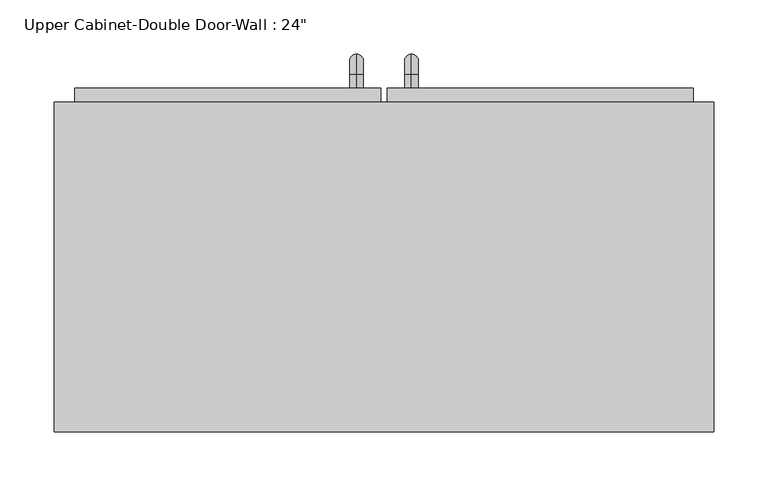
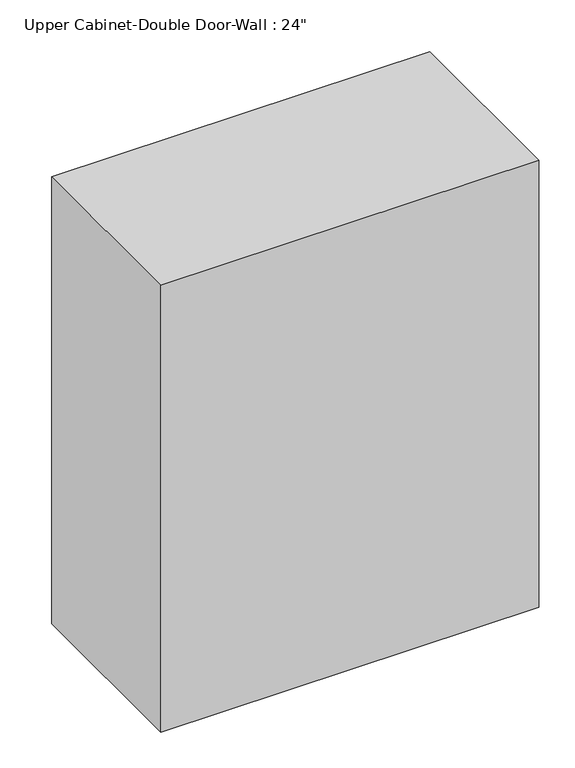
"""IFC4 building model written with IfcOpenShell, lengths in millimetres: furniture geometry."""

import ifcopenshell
import ifcopenshell.guid

model = None  # the IFC model being written
_history = None  # IfcOwnerHistory: only IFC2X3 demands one
_inside = {}  # id of a spatial element -> (the spatial element, [elements in it])
_under = {}  # id of a project, library or spatial element -> (it, [spatial elements below it])
_declared = {}  # id of a project -> (the project, [libraries it declares])
_typed = {}  # id of a type object -> (the type object, [elements of that type])
_made_of = {}  # id of a material, layer set ... -> (it, [elements and type objects made of it])


def new_model(schema):
    """Start an empty IFC model of exactly this schema.

    Asked for "IFC4X3", IfcOpenShell would pick the latest addendum, in which some entities
    have other attributes; the version numbers below select the first issue.
    IFC2X3 requires an IfcOwnerHistory on every rooted entity: one is made here for all.
    """
    global model, _history
    if schema == "IFC4X3":
        model = ifcopenshell.file(schema_version=(4, 3, 0, 0))
    else:
        model = ifcopenshell.file(schema=schema)
    _inside.clear()
    _under.clear()
    _declared.clear()
    _typed.clear()
    _made_of.clear()
    _history = None
    if model.schema == "IFC2X3":
        org = make("IfcOrganization", Name="unknown")
        user = make(
            "IfcPersonAndOrganization",
            ThePerson=make("IfcPerson", FamilyName="unknown"),
            TheOrganization=org,
        )
        app = make(
            "IfcApplication",
            ApplicationDeveloper=org,
            Version="unknown",
            ApplicationFullName="unknown",
            ApplicationIdentifier="unknown",
        )
        _history = make(
            "IfcOwnerHistory",
            OwningUser=user,
            OwningApplication=app,
            ChangeAction="ADDED",
            CreationDate=0,
        )
    return model


def make(cls, **values):
    """One entity of the class cls with the attributes given. An attribute that is None is left unset."""
    return model.create_entity(
        cls, **{name: value for name, value in values.items() if value is not None}
    )


def rooted(cls, **values):
    """An entity with a GlobalId (a new one), such as an element, a storey or a relation."""
    return make(cls, GlobalId=ifcopenshell.guid.new(), OwnerHistory=_history, **values)


def si_unit(unit_type, name, prefix=None):
    """IfcSIUnit, for example si_unit("LENGTHUNIT", "METRE", prefix="MILLI")."""
    return make("IfcSIUnit", UnitType=unit_type, Prefix=prefix, Name=name)


def assignment(units):
    """IfcUnitAssignment: the units of a project."""
    return None if units is None else make("IfcUnitAssignment", Units=units)


def point(xyz):
    """IfcCartesianPoint."""
    return None if xyz is None else make("IfcCartesianPoint", Coordinates=xyz)


def direction(xyz):
    """IfcDirection."""
    return None if xyz is None else make("IfcDirection", DirectionRatios=xyz)


def frame(location, z_axis=None, x_axis=None):
    """IfcAxis2Placement3D, a coordinate frame: its origin and axes. An axis left out is left unset."""
    return make(
        "IfcAxis2Placement3D",
        Location=point(location),
        Axis=direction(z_axis),
        RefDirection=direction(x_axis),
    )


def origin():
    """The frame at (0, 0, 0) with its axes left unset."""
    return frame((0.0, 0.0, 0.0))


def place(relative_to, where):
    """IfcLocalPlacement: puts the frame where relative to a parent placement (None: the world)."""
    return make(
        "IfcLocalPlacement", PlacementRelTo=relative_to, RelativePlacement=where
    )


def context(
    kind, dimensions, precision=None, world=None, true_north=None, identifier=None
):
    """IfcGeometricRepresentationContext, for example the 3D "Model" context."""
    return make(
        "IfcGeometricRepresentationContext",
        ContextIdentifier=identifier,
        ContextType=kind,
        CoordinateSpaceDimension=dimensions,
        Precision=precision,
        WorldCoordinateSystem=world,
        TrueNorth=true_north,
    )


def project(units=None, contexts=None):
    """IfcProject with its units and contexts."""
    return rooted(
        "IfcProject",
        Name="project",
        RepresentationContexts=contexts,
        UnitsInContext=assignment(units),
    )


def spatial(cls, under=None, at=None, **own):
    """A site, building, storey or space (cls), placed at a placement, below another one or the project."""
    s = rooted(cls, ObjectPlacement=at, **own)
    if under is not None:
        _under.setdefault(under.id(), (under, []))[1].append(s)
    return s


def polyline(points):
    """IfcPolyline through the points."""
    return make("IfcPolyline", Points=[point(p) for p in points])


def circle_curve(where, radius):
    """IfcCircle in the frame where."""
    return make("IfcCircle", Position=where, Radius=radius)


def ellipse_curve(where, semi_axis1, semi_axis2):
    """IfcEllipse in the frame where."""
    return make(
        "IfcEllipse", Position=where, SemiAxis1=semi_axis1, SemiAxis2=semi_axis2
    )


def trimmed(basis, trim1, trim2, sense, master):
    """IfcTrimmedCurve: the piece of a basis curve between two trims."""
    return make(
        "IfcTrimmedCurve",
        BasisCurve=basis,
        Trim1=trim1,
        Trim2=trim2,
        SenseAgreement=sense,
        MasterRepresentation=master,
    )


def outline(outer, holes=None, kind="AREA"):
    """IfcArbitraryClosedProfileDef: a profile drawn as a closed curve; with holes, ...WithVoids."""
    if holes is None:
        return make("IfcArbitraryClosedProfileDef", ProfileType=kind, OuterCurve=outer)
    return make(
        "IfcArbitraryProfileDefWithVoids",
        ProfileType=kind,
        OuterCurve=outer,
        InnerCurves=holes,
    )


def extrude(swept, where, along, depth):
    """IfcExtrudedAreaSolid: the profile swept, set in the frame where, extruded along a direction by depth."""
    return make(
        "IfcExtrudedAreaSolid",
        SweptArea=swept,
        Position=where,
        ExtrudedDirection=direction(along),
        Depth=depth,
    )


def faces_of(points, faces, orient=None, outer=None):
    """IfcFace entities. A face is a list of loops; a loop is a list of indices into points, from 0.

    orient and outer hold one flag for each loop. By default every Orientation is true, the
    first loop of a face is its IfcFaceOuterBound and the others are IfcFaceBound.
    """
    made = []
    for i, loops in enumerate(faces):
        bounds = []
        for j, loop in enumerate(loops):
            is_outer = j == 0 if outer is None else outer[i][j]
            bounds.append(
                make(
                    "IfcFaceOuterBound" if is_outer else "IfcFaceBound",
                    Bound=make("IfcPolyLoop", Polygon=[points[k] for k in loop]),
                    Orientation=True if orient is None else orient[i][j],
                )
            )
        made.append(make("IfcFace", Bounds=bounds))
    return made


def faceted_brep(points, faces, orient=None, outer=None, voids=None):
    """IfcFacetedBrep: a solid bounded by flat faces; with voids (closed shells), ...WithVoids."""
    shared = [point(p) for p in points]
    hull = make("IfcClosedShell", CfsFaces=faces_of(shared, faces, orient, outer))
    if voids is None:
        return make("IfcFacetedBrep", Outer=hull)
    return make(
        "IfcFacetedBrepWithVoids",
        Outer=hull,
        Voids=[
            make(cls, CfsFaces=faces_of(shared, fs, o, b)) for cls, fs, o, b in voids
        ],
    )


def shape(context_of_items, identifier, shape_type, items):
    """IfcShapeRepresentation: the items that make up one representation, for example the "Body"."""
    return make(
        "IfcShapeRepresentation",
        ContextOfItems=context_of_items,
        RepresentationIdentifier=identifier,
        RepresentationType=shape_type,
        Items=items,
    )


def source(mapping_origin, context_of_items, identifier, shape_type, items):
    """IfcRepresentationMap: a shape defined once, which mapped items show again and again."""
    return make(
        "IfcRepresentationMap",
        MappingOrigin=mapping_origin,
        MappedRepresentation=shape(context_of_items, identifier, shape_type, items),
    )


def transform(
    local_origin,
    x_axis=None,
    y_axis=None,
    z_axis=None,
    scale=None,
    scale2=None,
    scale3=None,
    uniform=True,
):
    """IfcCartesianTransformationOperator3D, or its non-uniform kind. x_axis, y_axis, z_axis: its Axis1, 2, 3."""
    if uniform:
        return make(
            "IfcCartesianTransformationOperator3D",
            Axis1=direction(x_axis),
            Axis2=direction(y_axis),
            LocalOrigin=point(local_origin),
            Scale=scale,
            Axis3=direction(z_axis),
        )
    return make(
        "IfcCartesianTransformationOperator3DnonUniform",
        Axis1=direction(x_axis),
        Axis2=direction(y_axis),
        LocalOrigin=point(local_origin),
        Scale=scale,
        Axis3=direction(z_axis),
        Scale2=scale2,
        Scale3=scale3,
    )


def mapped(mapping_source, mapping_target):
    """IfcMappedItem: shows the shape of a source again, moved by a transform."""
    return make(
        "IfcMappedItem", MappingSource=mapping_source, MappingTarget=mapping_target
    )


def made_of(thing, what):
    """Note that an element or type object is made of a material, layer set ...; save() writes the relation."""
    if what is not None:
        _made_of.setdefault(what.id(), (what, []))[1].append(thing)
    return thing


def element(
    cls,
    number,
    at=None,
    inside=None,
    cuts=None,
    type_object=None,
    material=None,
    context=None,
    identifier="Body",
    shape_type=None,
    held_by="IfcProductDefinitionShape",
    body=None,
    shapes=None,
    **own,
):
    """One element of the class cls, such as IfcWall. Its Tag is "e" and its number.

    at: its placement. inside: the storey or other place that contains it. cuts: it is an
    opening in that element (IfcRelVoidsElement). A single representation is given by context,
    identifier, shape_type and body (its items); several are given by shapes. held_by: the class
    of the entity that holds the representations. save() writes the other relations.
    """
    e = rooted(cls, Tag="e%d" % number, ObjectPlacement=at, **own)
    if body is not None:
        shapes = [shape(context, identifier, shape_type, body)]
    if shapes is not None:
        e.Representation = make(held_by, Representations=shapes)
    if inside is not None:
        _inside.setdefault(inside.id(), (inside, []))[1].append(e)
    if cuts is not None:
        rooted(
            "IfcRelVoidsElement", RelatingBuildingElement=cuts, RelatedOpeningElement=e
        )
    if type_object is not None:
        _typed.setdefault(type_object.id(), (type_object, []))[1].append(e)
    return made_of(e, material)


def aggregate(whole, parts):
    """IfcRelAggregates: a whole, such as a stair, and the parts it consists of."""
    return rooted("IfcRelAggregates", RelatingObject=whole, RelatedObjects=parts)


def save(model, path):
    """Write the relations noted so far, then the file.

    IfcRelAggregates (storeys below a building ...), IfcRelContainedInSpatialStructure (elements
    in a storey), IfcRelDefinesByType, IfcRelAssociatesMaterial and IfcRelDeclares: one each for
    every whole, place, type object, material and project.
    """
    for whole, parts in _under.values():
        aggregate(whole, parts)
    for where, things in _inside.values():
        rooted(
            "IfcRelContainedInSpatialStructure",
            RelatedElements=things,
            RelatingStructure=where,
        )
    for kind, things in _typed.values():
        rooted("IfcRelDefinesByType", RelatedObjects=things, RelatingType=kind)
    for what, things in _made_of.values():
        rooted("IfcRelAssociatesMaterial", RelatedObjects=things, RelatingMaterial=what)
    for by, libraries in _declared.values():
        rooted("IfcRelDeclares", RelatingContext=by, RelatedDefinitions=libraries)
    model.write(path)


def plane_surface(at):
    """IfcPlane: the flat surface through the origin of the frame at, square to its z axis."""
    return make("IfcPlane", Position=at)


def cylinder_surface(at, radius):
    """IfcCylindricalSurface: all points at the distance radius from the z axis of the frame at."""
    return make("IfcCylindricalSurface", Position=at, Radius=radius)


def revolved_surface(curve, axis_point, axis_direction):
    """IfcSurfaceOfRevolution: the curve turned about the line through axis_point along axis_direction."""
    return make(
        "IfcSurfaceOfRevolution",
        SweptCurve=make("IfcArbitraryOpenProfileDef", ProfileType="CURVE", Curve=curve),
        AxisPosition=make("IfcAxis1Placement", Location=point(axis_point), Axis=direction(axis_direction)),
    )


def advanced_brep(points, edges, surfaces, faces):
    """IfcAdvancedBrep: a solid bounded by faces that lie on surfaces and meet in shared edges.

    An edge is (start, end): straight between two places in points (the first is 0);
    or (start, end, curve); or (start, end, curve, False) where it runs against its curve.
    A face is (place in surfaces, loops), or (place, loops, False) where it looks against
    its surface's normal. A loop lists edges by number (the first is 1), with a minus sign
    where the edge is run from its end to its start. The first loop is the outer one.
    """
    corners = [point(p) for p in points]
    vertices = [make("IfcVertexPoint", VertexGeometry=c) for c in corners]
    made = []
    for start, end, *more in edges:
        made.append(
            make(
                "IfcEdgeCurve",
                EdgeStart=vertices[start],
                EdgeEnd=vertices[end],
                EdgeGeometry=more[0] if more else make("IfcPolyline", Points=[corners[start], corners[end]]),
                SameSense=more[1] if len(more) > 1 else True,
            )
        )
    hull = []
    for where, loops, *sense in faces:
        bounds = []
        for j, loop in enumerate(loops):
            ring = [make("IfcOrientedEdge", EdgeElement=made[abs(k) - 1], Orientation=k > 0) for k in loop]
            bounds.append(
                make(
                    "IfcFaceOuterBound" if j == 0 else "IfcFaceBound",
                    Bound=make("IfcEdgeLoop", EdgeList=ring),
                    Orientation=True,
                )
            )
        hull.append(make("IfcAdvancedFace", Bounds=bounds, FaceSurface=surfaces[where], SameSense=sense[0] if sense else True))
    return make("IfcAdvancedBrep", Outer=make("IfcClosedShell", CfsFaces=hull))


def furniture_de2c603d(model_context):
    return source(origin(), model_context, "Body", "SolidModel", [
        faceted_brep([(-275.0288372, 57.15, 2133.6), (-275.0288372, 57.15, 1371.6), (334.5711628, 57.15, 1371.6), (334.5711628, 57.15, 2133.6), (-275.0288372, 361.95, 2133.6), (334.5711628, 361.95, 2133.6), (334.5711628, 361.95, 1371.6), (-275.0288372, 361.95, 1371.6), (-255.9788372, 361.95, 2114.55), (-255.9788372, 361.95, 1390.65), (315.5211628, 361.95, 1390.65), (315.5211628, 361.95, 2114.55), (315.5211628, 76.2, 2114.55), (-255.9788372, 76.2, 2114.55), (315.5211628, 76.2, 1390.65), (-255.9788372, 76.2, 1390.65)], [[[0, 1, 2, 3]], [[4, 5, 6, 7], [8, 9, 10, 11]], [[1, 0, 4, 7]], [[2, 1, 7, 6]], [[3, 2, 6, 5]], [[0, 3, 5, 4]], [[8, 11, 12, 13]], [[11, 10, 14, 12]], [[10, 9, 15, 14]], [[9, 8, 13, 15]], [[13, 12, 14, 15]]]),
        advanced_brep(
        [(55.1711628, 374.65, 1517.65), (55.1711628, 374.65, 1530.35), (55.1711628, 387.35, 1517.65), (55.1711628, 387.35, 1530.35), (55.1711628, 406.4, 1511.3), (55.1711628, 393.7, 1511.3), (55.1711628, 393.7, 1435.1), (55.1711628, 406.4, 1435.1), (55.1711628, 387.35, 1416.05), (55.1711628, 387.35, 1428.75), (55.1711628, 374.65, 1428.75), (55.1711628, 374.65, 1416.05)],
        [
            (0, 1, circle_curve(frame((55.1711628, 374.65, 1524.0), z_axis=(0.0, -1.0, 0.0), x_axis=(0.0, 0.0, -1.0)), 6.35)),
            (1, 0, circle_curve(frame((55.1711628, 374.65, 1524.0), z_axis=(0.0, -1.0, 0.0), x_axis=(0.0, 0.0, -1.0)), 6.35)),
            (0, 2),
            (2, 3, circle_curve(frame((55.1711628, 387.35, 1524.0), z_axis=(0.0, -1.0, 0.0), x_axis=(0.0, 0.0, -1.0)), 6.35)),
            (3, 1),
            (3, 2, circle_curve(frame((55.1711628, 387.35, 1524.0), z_axis=(0.0, -1.0, 0.0), x_axis=(0.0, 0.0, -1.0)), 6.35)),
            (4, 3, circle_curve(frame((55.1711628, 387.35, 1511.3), z_axis=(1.0, 0.0, 0.0), x_axis=(0.0, 0.0, 1.0)), 19.05)),
            (2, 5, circle_curve(frame((55.1711628, 387.35, 1511.3), z_axis=(-1.0, 0.0, 0.0), x_axis=(0.0, 0.0, 1.0)), 6.35)),
            (5, 4, circle_curve(frame((55.1711628, 400.05, 1511.3), z_axis=(0.0, 0.0, 1.0), x_axis=(0.0, -1.0, 0.0)), 6.35)),
            (4, 5, circle_curve(frame((55.1711628, 400.05, 1511.3), z_axis=(0.0, 0.0, 1.0), x_axis=(0.0, -1.0, 0.0)), 6.35)),
            (5, 6),
            (6, 7, circle_curve(frame((55.1711628, 400.05, 1435.1), z_axis=(0.0, 0.0, 1.0), x_axis=(0.0, -1.0, 0.0)), 6.35)),
            (7, 4),
            (7, 6, circle_curve(frame((55.1711628, 400.05, 1435.1), z_axis=(0.0, 0.0, 1.0), x_axis=(0.0, -1.0, 0.0)), 6.35)),
            (8, 7, circle_curve(frame((55.1711628, 387.35, 1435.1), z_axis=(1.0, 0.0, 0.0), x_axis=(0.0, 1.0, 0.0)), 19.05)),
            (6, 9, circle_curve(frame((55.1711628, 387.35, 1435.1), z_axis=(-1.0, 0.0, 0.0), x_axis=(0.0, 1.0, 0.0)), 6.35)),
            (9, 8, circle_curve(frame((55.1711628, 387.35, 1422.4), z_axis=(0.0, 1.0, 0.0), x_axis=(0.0, 0.0, 1.0)), 6.35)),
            (8, 9, circle_curve(frame((55.1711628, 387.35, 1422.4), z_axis=(0.0, 1.0, 0.0), x_axis=(0.0, 0.0, 1.0)), 6.35)),
            (10, 11, circle_curve(frame((55.1711628, 374.65, 1422.4), z_axis=(0.0, -1.0, 0.0), x_axis=(0.0, 0.0, 1.0)), 6.35)),
            (11, 10, circle_curve(frame((55.1711628, 374.65, 1422.4), z_axis=(0.0, -1.0, 0.0), x_axis=(0.0, 0.0, 1.0)), 6.35)),
            (9, 10),
            (11, 8),
        ],
        [
            plane_surface(frame((48.8211628, 374.65, 1524.0), z_axis=(0.0, -1.0, 0.0), x_axis=(0.0, 0.0, 1.0))),
            cylinder_surface(frame((55.1711628, 374.65, 1524.0), z_axis=(0.0, -1.0, 0.0), x_axis=(0.0, 0.0, -1.0)), 6.35),
            revolved_surface(trimmed(ellipse_curve(frame((55.1711628, 387.35, 1524.0), z_axis=(0.0, -1.0, 0.0), x_axis=(0.0, 0.0, -1.0)), 6.35, 6.35), [point((55.1711628, 387.35, 1517.65))], [point((55.1711628, 387.35, 1530.35))], True, "CARTESIAN"), (55.1711628, 387.35, 1511.3), (-1.0, 0.0, 0.0)),
            revolved_surface(trimmed(ellipse_curve(frame((55.1711628, 387.35, 1524.0), z_axis=(0.0, -1.0, 0.0), x_axis=(0.0, 0.0, -1.0)), 6.35, 6.35), [point((55.1711628, 387.35, 1530.35))], [point((55.1711628, 387.35, 1517.65))], True, "CARTESIAN"), (55.1711628, 387.35, 1511.3), (-1.0, 0.0, 0.0)),
            cylinder_surface(frame((55.1711628, 400.05, 1511.3), z_axis=(0.0, 0.0, 1.0), x_axis=(0.0, -1.0, 0.0)), 6.35),
            revolved_surface(trimmed(ellipse_curve(frame((55.1711628, 400.05, 1435.1), z_axis=(0.0, 0.0, 1.0), x_axis=(0.0, -1.0, 0.0)), 6.35, 6.35), [point((55.1711628, 393.7, 1435.1))], [point((55.1711628, 406.4, 1435.1))], True, "CARTESIAN"), (55.1711628, 387.35, 1435.1), (-1.0, 0.0, 0.0)),
            revolved_surface(trimmed(ellipse_curve(frame((55.1711628, 400.05, 1435.1), z_axis=(0.0, 0.0, 1.0), x_axis=(0.0, -1.0, 0.0)), 6.35, 6.35), [point((55.1711628, 406.4, 1435.1))], [point((55.1711628, 393.7, 1435.1))], True, "CARTESIAN"), (55.1711628, 387.35, 1435.1), (-1.0, 0.0, 0.0)),
            plane_surface(frame((48.8211628, 374.65, 1422.4), z_axis=(0.0, -1.0, 0.0), x_axis=(0.0, 0.0, -1.0))),
            cylinder_surface(frame((55.1711628, 387.35, 1422.4), z_axis=(0.0, 1.0, 0.0), x_axis=(0.0, 0.0, 1.0)), 6.35),
        ],
        [
            (0, [[1, 2]]),
            (1, [[-1, 3, 4, 5]]),
            (1, [[-2, -5, 6, -3]]),
            (2, [[7, -4, 8, 9]]),
            (3, [[-8, -6, -7, 10]]),
            (4, [[-9, 11, 12, 13]]),
            (4, [[-10, -13, 14, -11]]),
            (5, [[15, -12, 16, 17]]),
            (6, [[-16, -14, -15, 18]]),
            (7, [[19, 20]]),
            (8, [[-17, 21, -20, 22]]),
            (8, [[-18, -22, -19, -21]]),
        ],
    ),
        advanced_brep(
        [(4.3711628, 374.65, 1517.65), (4.3711628, 374.65, 1530.35), (4.3711628, 387.35, 1517.65), (4.3711628, 387.35, 1530.35), (4.3711628, 406.4, 1511.3), (4.3711628, 393.7, 1511.3), (4.3711628, 393.7, 1435.1), (4.3711628, 406.4, 1435.1), (4.3711628, 387.35, 1416.05), (4.3711628, 387.35, 1428.75), (4.3711628, 374.65, 1428.75), (4.3711628, 374.65, 1416.05)],
        [
            (0, 1, circle_curve(frame((4.3711628, 374.65, 1524.0), z_axis=(0.0, -1.0, 0.0), x_axis=(0.0, 0.0, 1.0)), 6.35)),
            (1, 0, circle_curve(frame((4.3711628, 374.65, 1524.0), z_axis=(0.0, -1.0, 0.0), x_axis=(0.0, 0.0, 1.0)), 6.35)),
            (0, 2),
            (2, 3, circle_curve(frame((4.3711628, 387.35, 1524.0), z_axis=(0.0, -1.0, 0.0), x_axis=(0.0, 0.0, 1.0)), 6.35)),
            (3, 1),
            (3, 2, circle_curve(frame((4.3711628, 387.35, 1524.0), z_axis=(0.0, -1.0, 0.0), x_axis=(0.0, 0.0, 1.0)), 6.35)),
            (4, 3, circle_curve(frame((4.3711628, 387.35, 1511.3), z_axis=(1.0, 0.0, 0.0), x_axis=(0.0, 0.0, 1.0)), 19.05)),
            (2, 5, circle_curve(frame((4.3711628, 387.35, 1511.3), z_axis=(-1.0, 0.0, 0.0), x_axis=(0.0, 0.0, 1.0)), 6.35)),
            (5, 4, circle_curve(frame((4.3711628, 400.05, 1511.3), z_axis=(0.0, 0.0, 1.0), x_axis=(0.0, 1.0, 0.0)), 6.35)),
            (4, 5, circle_curve(frame((4.3711628, 400.05, 1511.3), z_axis=(0.0, 0.0, 1.0), x_axis=(0.0, 1.0, 0.0)), 6.35)),
            (5, 6),
            (6, 7, circle_curve(frame((4.3711628, 400.05, 1435.1), z_axis=(0.0, 0.0, 1.0), x_axis=(0.0, 1.0, 0.0)), 6.35)),
            (7, 4),
            (7, 6, circle_curve(frame((4.3711628, 400.05, 1435.1), z_axis=(0.0, 0.0, 1.0), x_axis=(0.0, 1.0, 0.0)), 6.35)),
            (8, 7, circle_curve(frame((4.3711628, 387.35, 1435.1), z_axis=(1.0, 0.0, 0.0), x_axis=(0.0, 1.0, 0.0)), 19.05)),
            (6, 9, circle_curve(frame((4.3711628, 387.35, 1435.1), z_axis=(-1.0, 0.0, 0.0), x_axis=(0.0, 1.0, 0.0)), 6.35)),
            (9, 8, circle_curve(frame((4.3711628, 387.35, 1422.4), z_axis=(0.0, 1.0, 0.0), x_axis=(0.0, 0.0, -1.0)), 6.35)),
            (8, 9, circle_curve(frame((4.3711628, 387.35, 1422.4), z_axis=(0.0, 1.0, 0.0), x_axis=(0.0, 0.0, -1.0)), 6.35)),
            (10, 11, circle_curve(frame((4.3711628, 374.65, 1422.4), z_axis=(0.0, -1.0, 0.0), x_axis=(0.0, 0.0, -1.0)), 6.35)),
            (11, 10, circle_curve(frame((4.3711628, 374.65, 1422.4), z_axis=(0.0, -1.0, 0.0), x_axis=(0.0, 0.0, -1.0)), 6.35)),
            (9, 10),
            (11, 8),
        ],
        [
            plane_surface(frame((-1.9788372, 374.65, 1524.0), z_axis=(0.0, -1.0, 0.0), x_axis=(0.0, 0.0, 1.0))),
            cylinder_surface(frame((4.3711628, 374.65, 1524.0), z_axis=(0.0, -1.0, 0.0), x_axis=(0.0, 0.0, 1.0)), 6.35),
            revolved_surface(trimmed(ellipse_curve(frame((4.3711628, 387.35, 1524.0), z_axis=(0.0, -1.0, 0.0), x_axis=(0.0, 0.0, 1.0)), 6.35, 6.35), [point((4.3711628, 387.35, 1517.65))], [point((4.3711628, 387.35, 1530.35))], True, "CARTESIAN"), (4.3711628, 387.35, 1511.3), (-1.0, 0.0, 0.0)),
            revolved_surface(trimmed(ellipse_curve(frame((4.3711628, 387.35, 1524.0), z_axis=(0.0, -1.0, 0.0), x_axis=(0.0, 0.0, 1.0)), 6.35, 6.35), [point((4.3711628, 387.35, 1530.35))], [point((4.3711628, 387.35, 1517.65))], True, "CARTESIAN"), (4.3711628, 387.35, 1511.3), (-1.0, 0.0, 0.0)),
            cylinder_surface(frame((4.3711628, 400.05, 1511.3), z_axis=(0.0, 0.0, 1.0), x_axis=(0.0, 1.0, 0.0)), 6.35),
            revolved_surface(trimmed(ellipse_curve(frame((4.3711628, 400.05, 1435.1), z_axis=(0.0, 0.0, 1.0), x_axis=(0.0, 1.0, 0.0)), 6.35, 6.35), [point((4.3711628, 393.7, 1435.1))], [point((4.3711628, 406.4, 1435.1))], True, "CARTESIAN"), (4.3711628, 387.35, 1435.1), (-1.0, 0.0, 0.0)),
            revolved_surface(trimmed(ellipse_curve(frame((4.3711628, 400.05, 1435.1), z_axis=(0.0, 0.0, 1.0), x_axis=(0.0, 1.0, 0.0)), 6.35, 6.35), [point((4.3711628, 406.4, 1435.1))], [point((4.3711628, 393.7, 1435.1))], True, "CARTESIAN"), (4.3711628, 387.35, 1435.1), (-1.0, 0.0, 0.0)),
            plane_surface(frame((-1.9788372, 374.65, 1422.4), z_axis=(0.0, -1.0, 0.0), x_axis=(0.0, 0.0, -1.0))),
            cylinder_surface(frame((4.3711628, 387.35, 1422.4), z_axis=(0.0, 1.0, 0.0), x_axis=(0.0, 0.0, -1.0)), 6.35),
        ],
        [
            (0, [[1, 2]]),
            (1, [[-1, 3, 4, 5]]),
            (1, [[-2, -5, 6, -3]]),
            (2, [[7, -4, 8, 9]]),
            (3, [[-8, -6, -7, 10]]),
            (4, [[-9, 11, 12, 13]]),
            (4, [[-10, -13, 14, -11]]),
            (5, [[15, -12, 16, 17]]),
            (6, [[-16, -14, -15, 18]]),
            (7, [[19, 20]]),
            (8, [[-17, 21, -20, 22]]),
            (8, [[-18, -22, -19, -21]]),
        ],
    ),
        extrude(outline(polyline([(32.9461628, 374.65), (315.5211628, 374.65), (315.5211628, 342.9), (32.9461628, 342.9), (32.9461628, 374.65)])), frame((0.0, 0.0, 1390.65), z_axis=(0.0, 0.0, 1.0), x_axis=(1.0, 0.0, 0.0)), (0.0, 0.0, 1.0), 723.9),
        extrude(outline(polyline([(-255.9788372, 374.65), (26.5961628, 374.65), (26.5961628, 342.9), (-255.9788372, 342.9), (-255.9788372, 374.65)])), frame((0.0, 0.0, 1390.65), z_axis=(0.0, 0.0, 1.0), x_axis=(1.0, 0.0, 0.0)), (0.0, 0.0, 1.0), 723.9),
    ])


if __name__ == "__main__":
    model = new_model("IFC4")
    model_context = context("Model", 3, world=origin())
    ifc_project = project(units=[si_unit("LENGTHUNIT", "METRE", prefix="MILLI")], contexts=[model_context])
    site = spatial("IfcSite", under=ifc_project)
    building = spatial("IfcBuilding", under=site)
    placement = place(None, origin())
    furniture_shape = furniture_de2c603d(model_context)
    element("IfcFurniture", 1, ObjectType="Upper Cabinet-Double Door-Wall : 24\"", at=placement, inside=building, context=model_context, shape_type="MappedRepresentation", body=[
        mapped(furniture_shape, transform((0.0, 0.0, 0.0), x_axis=(1.0, 0.0, 0.0), y_axis=(0.0, 1.0, 0.0), z_axis=(0.0, 0.0, 1.0))),
    ])
    save(model, "model.ifc")
